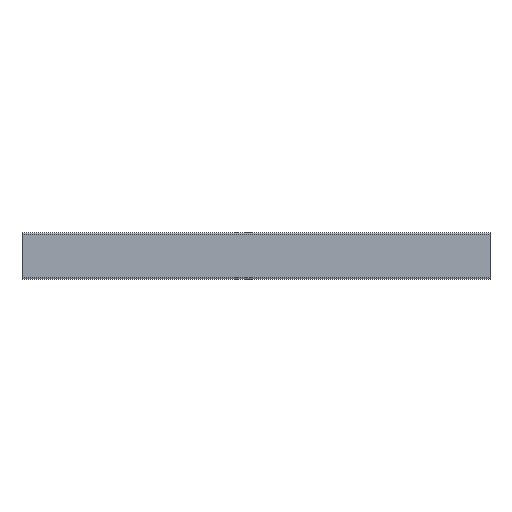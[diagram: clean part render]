
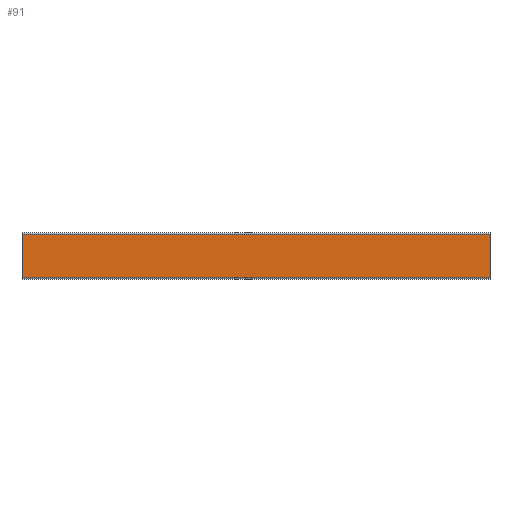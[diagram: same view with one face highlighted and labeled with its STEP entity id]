
A CAD part, left-side view. The second image highlights one B-rep face of the part: STEP entity #91.
In plain terms, the highlighted planar face has unit normal (-1, 0, 0).
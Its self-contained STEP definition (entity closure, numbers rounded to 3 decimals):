
#91=ADVANCED_FACE('',(#191),#192,.F.);
#191=FACE_OUTER_BOUND('',#297,.T.);
#192=PLANE('',#298);
#297=EDGE_LOOP('',(#509,#510,#511,#512));
#298=AXIS2_PLACEMENT_3D('',#513,#514,#515);
#509=ORIENTED_EDGE('',*,*,#736,.T.);
#510=ORIENTED_EDGE('',*,*,#691,.F.);
#511=ORIENTED_EDGE('',*,*,#750,.F.);
#512=ORIENTED_EDGE('',*,*,#751,.T.);
#513=CARTESIAN_POINT('',(0.0,0.,9.7));
#514=DIRECTION('',(1.0,0.0,0.0));
#515=DIRECTION('',(0.0,1.0,0.0));
#691=EDGE_CURVE('',#837,#832,#839,.T.);
#736=EDGE_CURVE('',#911,#832,#912,.T.);
#750=EDGE_CURVE('',#929,#837,#930,.T.);
#751=EDGE_CURVE('',#929,#911,#931,.T.);
#832=VERTEX_POINT('',#1035);
#837=VERTEX_POINT('',#1041);
#839=LINE('',#1043,#1044);
#911=VERTEX_POINT('',#1139);
#912=LINE('',#1140,#1141);
#929=VERTEX_POINT('',#1163);
#930=LINE('',#1164,#1165);
#931=LINE('',#1166,#1167);
#1035=CARTESIAN_POINT('',(0.0,100.0,0.3));
#1041=CARTESIAN_POINT('',(0.0,0.,0.3));
#1043=CARTESIAN_POINT('',(0.0,0.,0.3));
#1044=VECTOR('',#1264,1.0);
#1139=CARTESIAN_POINT('',(0.0,100.0,9.7));
#1140=CARTESIAN_POINT('',(0.0,100.0,9.7));
#1141=VECTOR('',#1330,1.0);
#1163=CARTESIAN_POINT('',(0.0,0.,9.7));
#1164=CARTESIAN_POINT('',(0.0,0.,9.7));
#1165=VECTOR('',#1345,1.0);
#1166=CARTESIAN_POINT('',(0.0,0.,9.7));
#1167=VECTOR('',#1346,1.0);
#1264=DIRECTION('',(0.0,1.0,0.0));
#1330=DIRECTION('',(0.0,0.0,-1.0));
#1345=DIRECTION('',(0.0,0.0,-1.0));
#1346=DIRECTION('',(0.0,1.0,0.0));
